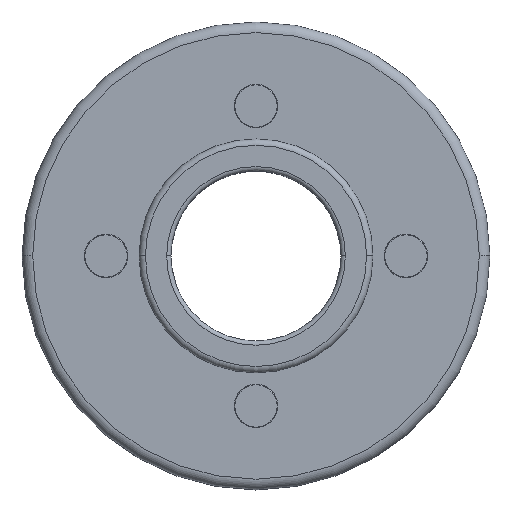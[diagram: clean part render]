
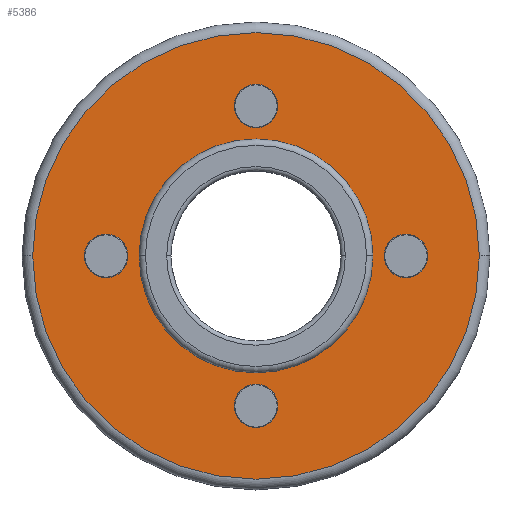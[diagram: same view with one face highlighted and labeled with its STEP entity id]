
A CAD part, top view. The second image highlights one B-rep face of the part: STEP entity #5386.
In plain terms, the highlighted planar face has unit normal (0, 0, 1).
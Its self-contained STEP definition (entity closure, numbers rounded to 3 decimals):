
#17 = CARTESIAN_POINT ( 'NONE',  ( 10.5, 0., -0.5 ) ) ;
#25 = CARTESIAN_POINT ( 'NONE',  ( 1.025, 7.05, -0.5 ) ) ;
#28 = CARTESIAN_POINT ( 'NONE',  ( -8.075, 0., -0.5 ) ) ;
#122 = CARTESIAN_POINT ( 'NONE',  ( 0., -7.05, -0.5 ) ) ;
#123 = DIRECTION ( 'NONE',  ( 0., 0., -1. ) ) ;
#124 = DIRECTION ( 'NONE',  ( -1., 0., 0. ) ) ;
#200 = AXIS2_PLACEMENT_3D ( 'NONE', #6079, #5933, #6000 ) ;
#229 = AXIS2_PLACEMENT_3D ( 'NONE', #5926, #5927, #5928 ) ;
#239 = AXIS2_PLACEMENT_3D ( 'NONE', #122, #123, #124 ) ;
#247 = AXIS2_PLACEMENT_3D ( 'NONE', #6088, #5973, #5989 ) ;
#249 = AXIS2_PLACEMENT_3D ( 'NONE', #6018, #5955, #5956 ) ;
#282 = AXIS2_PLACEMENT_3D ( 'NONE', #5289, #4867, #4966 ) ;
#308 = AXIS2_PLACEMENT_3D ( 'NONE', #5301, #5284, #5335 ) ;
#313 = AXIS2_PLACEMENT_3D ( 'NONE', #5319, #5006, #5315 ) ;
#314 = AXIS2_PLACEMENT_3D ( 'NONE', #5023, #5152, #5313 ) ;
#327 = AXIS2_PLACEMENT_3D ( 'NONE', #5027, #4970, #5089 ) ;
#397 = AXIS2_PLACEMENT_3D ( 'NONE', #2047, #2042, #2049 ) ;
#553 = AXIS2_PLACEMENT_3D ( 'NONE', #4512, #4513, #4514 ) ;
#610 = CARTESIAN_POINT ( 'NONE',  ( -1.025, -7.05, -0.5 ) ) ;
#672 = CARTESIAN_POINT ( 'NONE',  ( 1.025, -7.05, -0.5 ) ) ;
#687 = CARTESIAN_POINT ( 'NONE',  ( -6.025, 0., -0.5 ) ) ;
#711 = CARTESIAN_POINT ( 'NONE',  ( -1.025, 7.05, -0.5 ) ) ;
#797 = CARTESIAN_POINT ( 'NONE',  ( -5.5, 0., -0.5 ) ) ;
#822 = CARTESIAN_POINT ( 'NONE',  ( 5.5, 0., -0.5 ) ) ;
#847 = CARTESIAN_POINT ( 'NONE',  ( 6.025, 0., -0.5 ) ) ;
#853 = CARTESIAN_POINT ( 'NONE',  ( -10.5, 0., -0.5 ) ) ;
#878 = CARTESIAN_POINT ( 'NONE',  ( 8.075, 0., -0.5 ) ) ;
#904 = CIRCLE ( 'NONE', #229, 1.025 ) ;
#905 = CIRCLE ( 'NONE', #200, 1.025 ) ;
#962 = VERTEX_POINT ( 'NONE', #17 ) ;
#971 = VERTEX_POINT ( 'NONE', #28 ) ;
#985 = VERTEX_POINT ( 'NONE', #25 ) ;
#1031 = VERTEX_POINT ( 'NONE', #610 ) ;
#1037 = VERTEX_POINT ( 'NONE', #711 ) ;
#1042 = VERTEX_POINT ( 'NONE', #687 ) ;
#1096 = VERTEX_POINT ( 'NONE', #878 ) ;
#1102 = VERTEX_POINT ( 'NONE', #822 ) ;
#1130 = VERTEX_POINT ( 'NONE', #847 ) ;
#1160 = EDGE_LOOP ( 'NONE', ( #2497, #2556 ) ) ;
#1298 = EDGE_LOOP ( 'NONE', ( #2558, #2493 ) ) ;
#1315 = VERTEX_POINT ( 'NONE', #672 ) ;
#1317 = VERTEX_POINT ( 'NONE', #853 ) ;
#1350 = VERTEX_POINT ( 'NONE', #797 ) ;
#1393 = EDGE_LOOP ( 'NONE', ( #2592, #2595 ) ) ;
#1539 = EDGE_LOOP ( 'NONE', ( #2576, #3728 ) ) ;
#1657 = EDGE_LOOP ( 'NONE', ( #2567, #2611 ) ) ;
#1684 = EDGE_LOOP ( 'NONE', ( #2515, #2498 ) ) ;
#2042 = DIRECTION ( 'NONE',  ( 0., 0., -1. ) ) ;
#2046 = PLANE ( 'NONE',  #397 ) ;
#2047 = CARTESIAN_POINT ( 'NONE',  ( 0., 5.5, -0.5 ) ) ;
#2049 = DIRECTION ( 'NONE',  ( -1., 0., 0. ) ) ;
#2341 = AXIS2_PLACEMENT_3D ( 'NONE', #2431, #2388, #2368 ) ;
#2368 = DIRECTION ( 'NONE',  ( -1., 0., 0. ) ) ;
#2388 = DIRECTION ( 'NONE',  ( 0., 0., 1. ) ) ;
#2431 = CARTESIAN_POINT ( 'NONE',  ( 0., 0., -0.5 ) ) ;
#2493 = ORIENTED_EDGE ( 'NONE', *, *, #2827, .T. ) ;
#2497 = ORIENTED_EDGE ( 'NONE', *, *, #2839, .T. ) ;
#2498 = ORIENTED_EDGE ( 'NONE', *, *, #2841, .T. ) ;
#2515 = ORIENTED_EDGE ( 'NONE', *, *, #2666, .T. ) ;
#2556 = ORIENTED_EDGE ( 'NONE', *, *, #3430, .T. ) ;
#2558 = ORIENTED_EDGE ( 'NONE', *, *, #2851, .T. ) ;
#2567 = ORIENTED_EDGE ( 'NONE', *, *, #2685, .T. ) ;
#2576 = ORIENTED_EDGE ( 'NONE', *, *, #2722, .F. ) ;
#2592 = ORIENTED_EDGE ( 'NONE', *, *, #6342, .T. ) ;
#2595 = ORIENTED_EDGE ( 'NONE', *, *, #3517, .T. ) ;
#2611 = ORIENTED_EDGE ( 'NONE', *, *, #2675, .T. ) ;
#2649 = EDGE_CURVE ( 'NONE', #1350, #1102, #4067, .T. ) ;
#2666 = EDGE_CURVE ( 'NONE', #1037, #985, #3925, .T. ) ;
#2675 = EDGE_CURVE ( 'NONE', #1042, #971, #3966, .T. ) ;
#2685 = EDGE_CURVE ( 'NONE', #971, #1042, #3995, .T. ) ;
#2722 = EDGE_CURVE ( 'NONE', #1102, #1350, #3938, .T. ) ;
#2827 = EDGE_CURVE ( 'NONE', #1096, #1130, #4171, .T. ) ;
#2839 = EDGE_CURVE ( 'NONE', #1031, #1315, #905, .T. ) ;
#2841 = EDGE_CURVE ( 'NONE', #985, #1037, #904, .T. ) ;
#2851 = EDGE_CURVE ( 'NONE', #1130, #1096, #4107, .T. ) ;
#2892 = CIRCLE ( 'NONE', #239, 1.025 ) ;
#2960 = CIRCLE ( 'NONE', #2341, 10.5 ) ;
#3191 = FACE_OUTER_BOUND ( 'NONE', #1393, .T. ) ;
#3192 = FACE_BOUND ( 'NONE', #1657, .T. ) ;
#3193 = FACE_BOUND ( 'NONE', #1298, .T. ) ;
#3195 = FACE_BOUND ( 'NONE', #1684, .T. ) ;
#3196 = FACE_BOUND ( 'NONE', #1160, .T. ) ;
#3197 = FACE_BOUND ( 'NONE', #1539, .T. ) ;
#3430 = EDGE_CURVE ( 'NONE', #1315, #1031, #2892, .T. ) ;
#3517 = EDGE_CURVE ( 'NONE', #962, #1317, #2960, .T. ) ;
#3728 = ORIENTED_EDGE ( 'NONE', *, *, #2649, .F. ) ;
#3925 = CIRCLE ( 'NONE', #314, 1.025 ) ;
#3938 = CIRCLE ( 'NONE', #282, 5.5 ) ;
#3966 = CIRCLE ( 'NONE', #313, 1.025 ) ;
#3995 = CIRCLE ( 'NONE', #308, 1.025 ) ;
#4067 = CIRCLE ( 'NONE', #327, 5.5 ) ;
#4107 = CIRCLE ( 'NONE', #249, 1.025 ) ;
#4171 = CIRCLE ( 'NONE', #247, 1.025 ) ;
#4512 = CARTESIAN_POINT ( 'NONE',  ( 0., 0., -0.5 ) ) ;
#4513 = DIRECTION ( 'NONE',  ( 0., 0., 1. ) ) ;
#4514 = DIRECTION ( 'NONE',  ( -1., 0., 0. ) ) ;
#4679 = CIRCLE ( 'NONE', #553, 10.5 ) ;
#4867 = DIRECTION ( 'NONE',  ( 0., 0., 1. ) ) ;
#4966 = DIRECTION ( 'NONE',  ( 1., 0., 0. ) ) ;
#4970 = DIRECTION ( 'NONE',  ( 0., 0., 1. ) ) ;
#5006 = DIRECTION ( 'NONE',  ( 0., 0., -1. ) ) ;
#5023 = CARTESIAN_POINT ( 'NONE',  ( 0., 7.05, -0.5 ) ) ;
#5027 = CARTESIAN_POINT ( 'NONE',  ( 0., 0., -0.5 ) ) ;
#5089 = DIRECTION ( 'NONE',  ( 1., 0., 0. ) ) ;
#5152 = DIRECTION ( 'NONE',  ( 0., 0., -1. ) ) ;
#5284 = DIRECTION ( 'NONE',  ( 0., 0., -1. ) ) ;
#5289 = CARTESIAN_POINT ( 'NONE',  ( 0., 0., -0.5 ) ) ;
#5301 = CARTESIAN_POINT ( 'NONE',  ( -7.05, 0., -0.5 ) ) ;
#5313 = DIRECTION ( 'NONE',  ( -1., 0., 0. ) ) ;
#5315 = DIRECTION ( 'NONE',  ( -1., 0., 0. ) ) ;
#5319 = CARTESIAN_POINT ( 'NONE',  ( -7.05, 0., -0.5 ) ) ;
#5335 = DIRECTION ( 'NONE',  ( -1., 0., 0. ) ) ;
#5386 = ADVANCED_FACE ( 'NONE', ( #3193, #3196, #3192, #3195, #3191, #3197 ), #2046, .F. ) ;
#5926 = CARTESIAN_POINT ( 'NONE',  ( 0., 7.05, -0.5 ) ) ;
#5927 = DIRECTION ( 'NONE',  ( 0., 0., -1. ) ) ;
#5928 = DIRECTION ( 'NONE',  ( -1., 0., 0. ) ) ;
#5933 = DIRECTION ( 'NONE',  ( 0., 0., -1. ) ) ;
#5955 = DIRECTION ( 'NONE',  ( 0., 0., -1. ) ) ;
#5956 = DIRECTION ( 'NONE',  ( -1., 0., 0. ) ) ;
#5973 = DIRECTION ( 'NONE',  ( 0., 0., -1. ) ) ;
#5989 = DIRECTION ( 'NONE',  ( -1., 0., 0. ) ) ;
#6000 = DIRECTION ( 'NONE',  ( -1., 0., 0. ) ) ;
#6018 = CARTESIAN_POINT ( 'NONE',  ( 7.05, 0., -0.5 ) ) ;
#6079 = CARTESIAN_POINT ( 'NONE',  ( 0., -7.05, -0.5 ) ) ;
#6088 = CARTESIAN_POINT ( 'NONE',  ( 7.05, 0., -0.5 ) ) ;
#6342 = EDGE_CURVE ( 'NONE', #1317, #962, #4679, .T. ) ;
